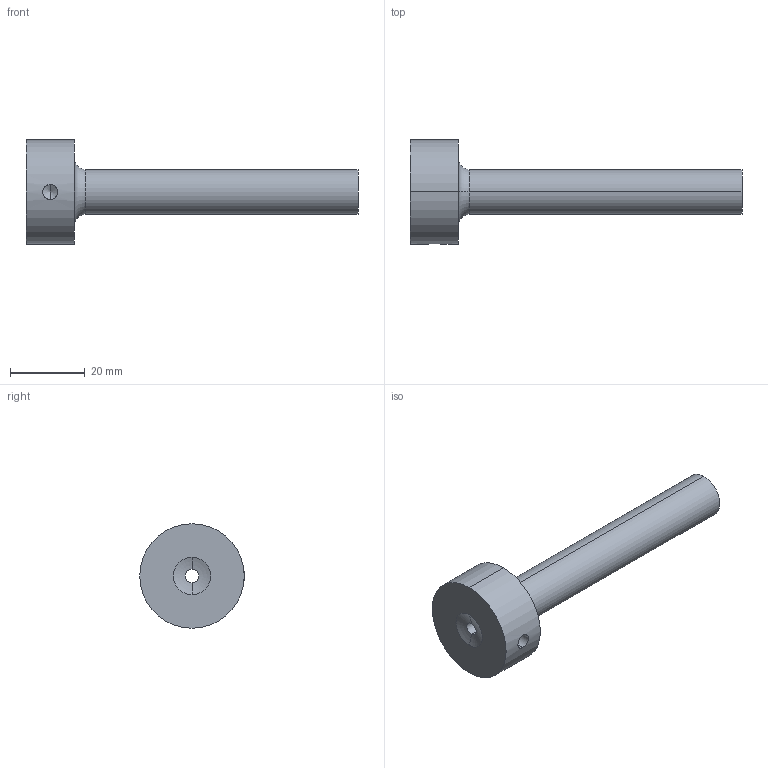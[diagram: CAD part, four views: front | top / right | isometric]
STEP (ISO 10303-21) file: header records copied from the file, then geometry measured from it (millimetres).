
FILE_DESCRIPTION (( 'STEP AP214' ), '1' );
FILE_NAME ('BR511 12X76X3,5X15,5.STEP', '2019-12-11T08:23:56', ( 'August' ), ( '' ), 'SwSTEP 2.0', 'SolidWorks 2018', '' );
FILE_SCHEMA (( 'AUTOMOTIVE_DESIGN' ));
Length unit declared in the file: millimetre
Products named in the file (1): BR511 12X76X3,5X15,5
Bounding box: 89 x 28 x 28 mm (x, y, z)
Volume: 14730.9 mm3; surface area: 6634.5 mm2
Topology: 1 solids, 1 shells, 17 faces, 36 edges, 21 vertices
Faces by surface type: cylinder 6, cone 4, torus 4, plane 3
Entity records: 538 total; most frequent: CARTESIAN_POINT 127, DIRECTION 90, ORIENTED_EDGE 68, AXIS2_PLACEMENT_3D 40, EDGE_CURVE 34, CIRCLE 22, VERTEX_POINT 21, EDGE_LOOP 21
